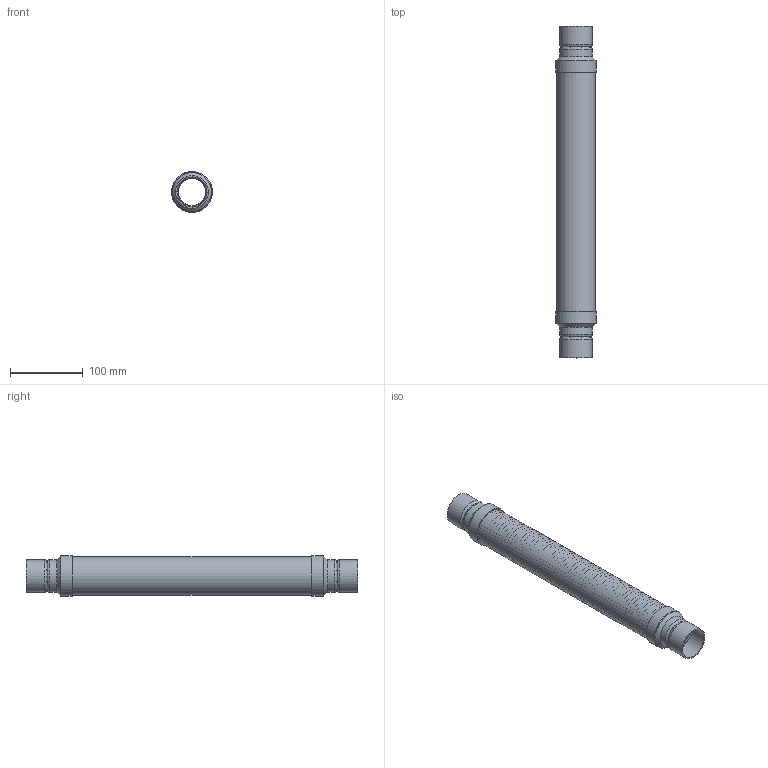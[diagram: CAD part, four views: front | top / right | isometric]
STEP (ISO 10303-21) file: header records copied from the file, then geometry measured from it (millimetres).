
FILE_DESCRIPTION((''),'2;1');
FILE_NAME('C:\2012_Work\Designs\CPSB\CPSB-1.5x18\CPSB-1.5x18.stp','2013-08-26T16:48:01',('KShiels'),(''),'Autodesk Inventor 2012','Autodesk Inventor 2012','');
FILE_SCHEMA(('AUTOMOTIVE_DESIGN { 1 0 10303 214 1 1 1 1 }'));
Length unit declared in the file: inch
Products named in the file (6): CPSB-1; CPSB-1_Welds; A-32707_1
Assembly tree (7 placements, depth 2):
  CPSB-1
    CPSB-1_Welds
    A-32707_1
    A-32707_1
    A-32707_1  x2
    A-32707_1  x2
Bounding box: 56.06 x 457.2 x 56.06 mm (x, y, z)
Volume: 106833.4 mm3; surface area: 462344.8 mm2
Topology: 8 solids, 8 shells, 550 faces, 842 edges, 558 vertices
Faces by surface type: plane 266, torus 266, cylinder 16, cone 2
Full cylindrical faces by diameter (mm): 41.478 x4, 45.136 x6, 52.07 x1, 52.883 x3, 56.058 x2
Entity records: 10962 total; most frequent: DIRECTION 2170, CARTESIAN_POINT 1623, AXIS2_PLACEMENT_3D 1085, ORIENTED_EDGE 1076, EDGE_LOOP 1068, VERTEX_POINT 538, CIRCLE 538, EDGE_CURVE 538
